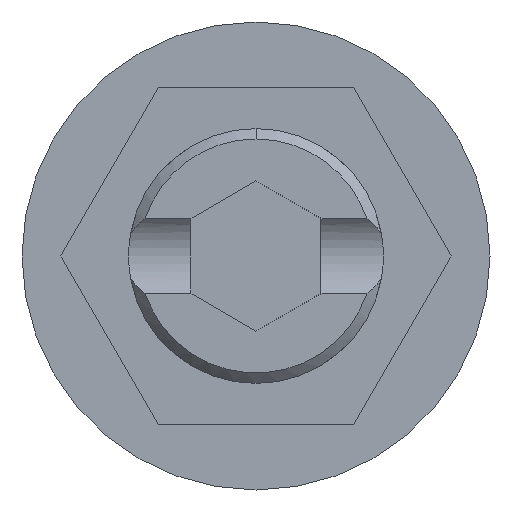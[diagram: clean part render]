
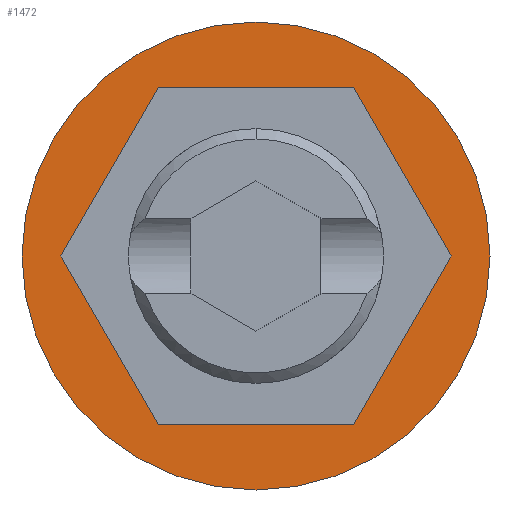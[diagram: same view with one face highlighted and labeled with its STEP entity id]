
A CAD part, front view. The second image highlights one B-rep face of the part: STEP entity #1472.
In plain terms, the highlighted planar face has unit normal (0, -1, 0).
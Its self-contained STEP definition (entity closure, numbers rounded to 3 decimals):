
#9 = EDGE_CURVE ( 'NONE', #836, #2889, #437, .T. ) ;
#10 = CARTESIAN_POINT ( 'NONE',  ( 1.876, 0., 3.25 ) ) ;
#22 = DIRECTION ( 'NONE',  ( -1., 0., 0. ) ) ;
#42 = VECTOR ( 'NONE', #105, 1000. ) ;
#57 = DIRECTION ( 'NONE',  ( -0.5, 0., -0.866 ) ) ;
#64 = EDGE_CURVE ( 'NONE', #2973, #2162, #2971, .T. ) ;
#79 = ORIENTED_EDGE ( 'NONE', *, *, #9, .F. ) ;
#105 = DIRECTION ( 'NONE',  ( 0.5, 0., 0.866 ) ) ;
#140 = CARTESIAN_POINT ( 'NONE',  ( 0., 0., 0. ) ) ;
#158 = FACE_BOUND ( 'NONE', #2877, .T. ) ;
#202 = CARTESIAN_POINT ( 'NONE',  ( 3.753, 0., 0. ) ) ;
#288 = EDGE_CURVE ( 'NONE', #2889, #2973, #708, .T. ) ;
#322 = AXIS2_PLACEMENT_3D ( 'NONE', #2574, #2772, #2596 ) ;
#394 = VERTEX_POINT ( 'NONE', #2673 ) ;
#397 = DIRECTION ( 'NONE',  ( 0., 0., -1. ) ) ;
#417 = EDGE_CURVE ( 'NONE', #519, #3010, #2679, .T. ) ;
#432 = LINE ( 'NONE', #2090, #779 ) ;
#437 = LINE ( 'NONE', #1971, #3052 ) ;
#519 = VERTEX_POINT ( 'NONE', #2939 ) ;
#670 = LINE ( 'NONE', #1506, #2016 ) ;
#708 = LINE ( 'NONE', #2894, #42 ) ;
#779 = VECTOR ( 'NONE', #57, 1000. ) ;
#836 = VERTEX_POINT ( 'NONE', #2000 ) ;
#962 = DIRECTION ( 'NONE',  ( 0.5, 0., -0.866 ) ) ;
#980 = DIRECTION ( 'NONE',  ( -0.5, 0., 0.866 ) ) ;
#1111 = AXIS2_PLACEMENT_3D ( 'NONE', #140, #1905, #397 ) ;
#1121 = DIRECTION ( 'NONE',  ( 0., 0., -1. ) ) ;
#1127 = EDGE_CURVE ( 'NONE', #394, #3213, #432, .T. ) ;
#1135 = LINE ( 'NONE', #1815, #1806 ) ;
#1270 = ORIENTED_EDGE ( 'NONE', *, *, #1916, .F. ) ;
#1341 = EDGE_CURVE ( 'NONE', #3010, #519, #2675, .T. ) ;
#1343 = DIRECTION ( 'NONE',  ( 0., -1., 0. ) ) ;
#1390 = ORIENTED_EDGE ( 'NONE', *, *, #64, .F. ) ;
#1472 = ADVANCED_FACE ( 'NONE', ( #158, #2105 ), #2440, .T. ) ;
#1506 = CARTESIAN_POINT ( 'NONE',  ( 1.876, 0., 3.25 ) ) ;
#1614 = CARTESIAN_POINT ( 'NONE',  ( 0., 0., 0. ) ) ;
#1686 = ORIENTED_EDGE ( 'NONE', *, *, #417, .T. ) ;
#1701 = ORIENTED_EDGE ( 'NONE', *, *, #288, .F. ) ;
#1806 = VECTOR ( 'NONE', #962, 1000. ) ;
#1815 = CARTESIAN_POINT ( 'NONE',  ( -3.753, 0., 0. ) ) ;
#1842 = ORIENTED_EDGE ( 'NONE', *, *, #1341, .T. ) ;
#1900 = CARTESIAN_POINT ( 'NONE',  ( -3.753, 0., 0. ) ) ;
#1905 = DIRECTION ( 'NONE',  ( 0., -1., 0. ) ) ;
#1916 = EDGE_CURVE ( 'NONE', #3213, #836, #1135, .T. ) ;
#1971 = CARTESIAN_POINT ( 'NONE',  ( -1.876, 0., -3.25 ) ) ;
#2000 = CARTESIAN_POINT ( 'NONE',  ( -1.876, 0., -3.25 ) ) ;
#2016 = VECTOR ( 'NONE', #22, 1000. ) ;
#2055 = CARTESIAN_POINT ( 'NONE',  ( 1.876, 0., -3.25 ) ) ;
#2090 = CARTESIAN_POINT ( 'NONE',  ( -1.876, 0., 3.25 ) ) ;
#2105 = FACE_OUTER_BOUND ( 'NONE', #3056, .T. ) ;
#2162 = VERTEX_POINT ( 'NONE', #10 ) ;
#2169 = EDGE_CURVE ( 'NONE', #2162, #394, #670, .T. ) ;
#2195 = AXIS2_PLACEMENT_3D ( 'NONE', #1614, #1343, #1121 ) ;
#2249 = ORIENTED_EDGE ( 'NONE', *, *, #1127, .F. ) ;
#2313 = VECTOR ( 'NONE', #980, 1000. ) ;
#2350 = DIRECTION ( 'NONE',  ( 1., 0., 0. ) ) ;
#2440 = PLANE ( 'NONE',  #2195 ) ;
#2574 = CARTESIAN_POINT ( 'NONE',  ( 0., 0., 0. ) ) ;
#2596 = DIRECTION ( 'NONE',  ( 0., 0., -1. ) ) ;
#2597 = CARTESIAN_POINT ( 'NONE',  ( 0., 0., -4.5 ) ) ;
#2673 = CARTESIAN_POINT ( 'NONE',  ( -1.876, 0., 3.25 ) ) ;
#2675 = CIRCLE ( 'NONE', #322, 4.5 ) ;
#2679 = CIRCLE ( 'NONE', #1111, 4.5 ) ;
#2772 = DIRECTION ( 'NONE',  ( 0., -1., 0. ) ) ;
#2832 = CARTESIAN_POINT ( 'NONE',  ( 3.753, 0., 0. ) ) ;
#2877 = EDGE_LOOP ( 'NONE', ( #79, #1270, #2249, #2919, #1390, #1701 ) ) ;
#2889 = VERTEX_POINT ( 'NONE', #2055 ) ;
#2894 = CARTESIAN_POINT ( 'NONE',  ( 1.876, 0., -3.25 ) ) ;
#2919 = ORIENTED_EDGE ( 'NONE', *, *, #2169, .F. ) ;
#2939 = CARTESIAN_POINT ( 'NONE',  ( 0., 0., 4.5 ) ) ;
#2971 = LINE ( 'NONE', #202, #2313 ) ;
#2973 = VERTEX_POINT ( 'NONE', #2832 ) ;
#3010 = VERTEX_POINT ( 'NONE', #2597 ) ;
#3052 = VECTOR ( 'NONE', #2350, 1000. ) ;
#3056 = EDGE_LOOP ( 'NONE', ( #1842, #1686 ) ) ;
#3213 = VERTEX_POINT ( 'NONE', #1900 ) ;
